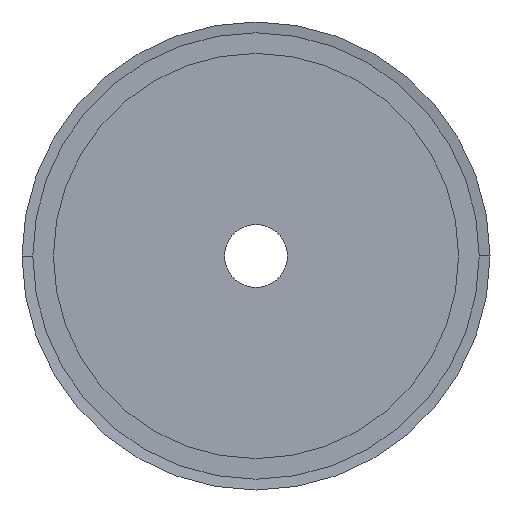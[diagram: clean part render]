
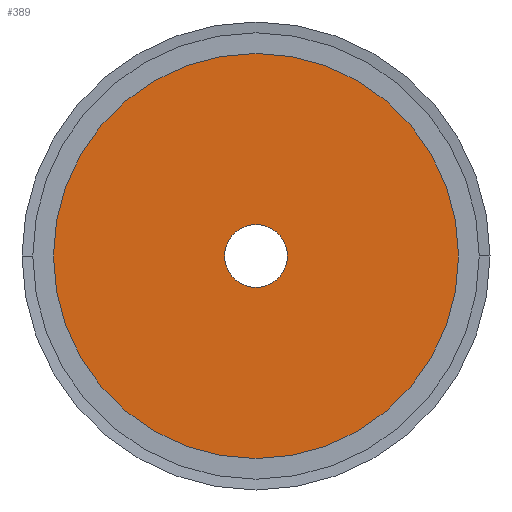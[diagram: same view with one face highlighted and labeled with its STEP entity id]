
A CAD part, left-side view. The second image highlights one B-rep face of the part: STEP entity #389.
In plain terms, the highlighted planar face has unit normal (-1, 0, 0).
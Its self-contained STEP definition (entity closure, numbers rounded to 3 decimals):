
#389 = ADVANCED_FACE( '', ( #1025, #1026 ), #1027, .T. );
#1025 = FACE_BOUND( '', #1662, .T. );
#1026 = FACE_OUTER_BOUND( '', #1663, .T. );
#1027 = PLANE( '', #1664 );
#1662 = EDGE_LOOP( '', ( #4435, #4436 ) );
#1663 = EDGE_LOOP( '', ( #4437, #4438 ) );
#1664 = AXIS2_PLACEMENT_3D( '', #4439, #4440, #4441 );
#4435 = ORIENTED_EDGE( '', *, *, #5352, .F. );
#4436 = ORIENTED_EDGE( '', *, *, #4457, .F. );
#4437 = ORIENTED_EDGE( '', *, *, #4445, .T. );
#4438 = ORIENTED_EDGE( '', *, *, #5357, .T. );
#4439 = CARTESIAN_POINT( '', ( 0., 29.75, 0. ) );
#4440 = DIRECTION( '', ( -1., 0., 0. ) );
#4441 = DIRECTION( '', ( 0., 1., 0. ) );
#4445 = EDGE_CURVE( '', #5359, #5363, #5365, .T. );
#4457 = EDGE_CURVE( '', #5387, #5383, #5389, .T. );
#5352 = EDGE_CURVE( '', #5383, #5387, #6876, .T. );
#5357 = EDGE_CURVE( '', #5363, #5359, #6881, .T. );
#5359 = VERTEX_POINT( '', #6883 );
#5363 = VERTEX_POINT( '', #6888 );
#5365 = CIRCLE( '', #6891, 51.5 );
#5383 = VERTEX_POINT( '', #6913 );
#5387 = VERTEX_POINT( '', #6918 );
#5389 = CIRCLE( '', #6921, 8. );
#6876 = CIRCLE( '', #8924, 8. );
#6881 = CIRCLE( '', #8929, 51.5 );
#6883 = CARTESIAN_POINT( '', ( 0., 51.5, 0. ) );
#6888 = CARTESIAN_POINT( '', ( 0., -51.5, 0. ) );
#6891 = AXIS2_PLACEMENT_3D( '', #8935, #8936, #8937 );
#6913 = CARTESIAN_POINT( '', ( 0., 8., 0. ) );
#6918 = CARTESIAN_POINT( '', ( 0., -8., 0. ) );
#6921 = AXIS2_PLACEMENT_3D( '', #8959, #8960, #8961 );
#8924 = AXIS2_PLACEMENT_3D( '', #10612, #10613, #10614 );
#8929 = AXIS2_PLACEMENT_3D( '', #10627, #10628, #10629 );
#8935 = CARTESIAN_POINT( '', ( 0., 0., 0. ) );
#8936 = DIRECTION( '', ( -1., 0., 0. ) );
#8937 = DIRECTION( '', ( 0., 1., 0. ) );
#8959 = CARTESIAN_POINT( '', ( 0., 0., 0. ) );
#8960 = DIRECTION( '', ( -1., 0., 0. ) );
#8961 = DIRECTION( '', ( 0., 1., 0. ) );
#10612 = CARTESIAN_POINT( '', ( 0., 0., 0. ) );
#10613 = DIRECTION( '', ( -1., 0., 0. ) );
#10614 = DIRECTION( '', ( 0., 1., 0. ) );
#10627 = CARTESIAN_POINT( '', ( 0., 0., 0. ) );
#10628 = DIRECTION( '', ( -1., 0., 0. ) );
#10629 = DIRECTION( '', ( 0., 1., 0. ) );
